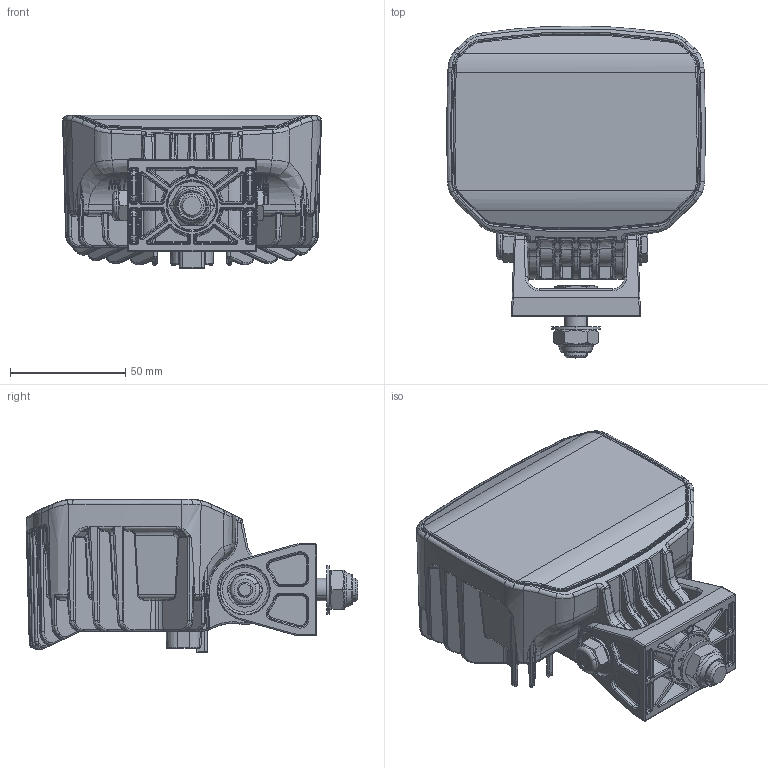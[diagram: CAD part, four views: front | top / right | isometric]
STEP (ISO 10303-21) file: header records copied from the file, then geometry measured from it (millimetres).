
FILE_DESCRIPTION(('CATIA V5 STEP Exchange','CAx-IF Rec.Pracs.--- Model Styling and Organization---1.5--- 2016-08-15','CAx-IF Rec.Pracs.---Supplemental Geometry---1.0---2011-11-01','CAx-IF Rec.Pracs.--- Composite Materials ---1.1---2010-07-15'),'2;1');
FILE_NAME('E:\tmp\ddx\2011206\HELLA_3D_data_Power_Beam_1000_compact_reverse_lamp_2ZR-996-188.stp','2022-01-18T07:36:21+00:00',('none'),('none'),'CATIA Version 5-6 Release 2020 SP3 HF9','CATIA V5 STEP AP214 Edition 3 v2','none');
FILE_SCHEMA(('AUTOMOTIVE_DESIGN { 1 0 10303 214 3 1 1 1 }'));
Products named in the file (1): 10002043936_D10_001
Bounding box: 112.32 x 143.95 x 66.52 mm (x, y, z)
Volume: 450499.2 mm3; surface area: 97947.5 mm2
Topology: 2 solids, 3 shells, 3983 faces, 9636 edges, 5524 vertices
Faces by surface type: bspline 1565, cylinder 878, plane 858, cone 241, torus 234, sphere 104, extrusion 103
Entity records: 199266 total; most frequent: CARTESIAN_POINT 123011, ORIENTED_EDGE 18848, EDGE_CURVE 9424, DIRECTION 8008, VERTEX_POINT 5524, B_SPLINE_CURVE_WITH_KNOTS 5384, EDGE_LOOP 4090, ADVANCED_FACE 3983
